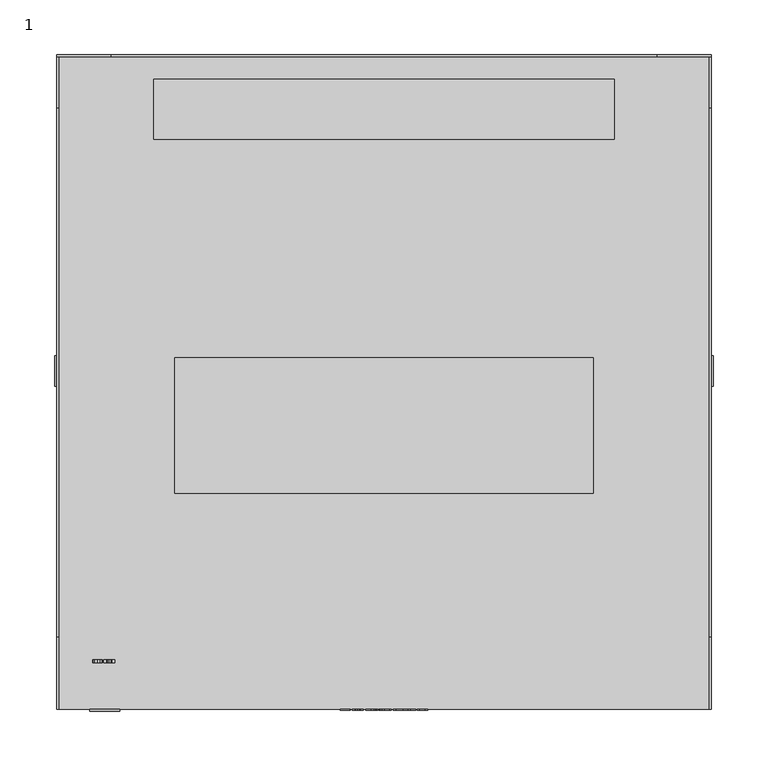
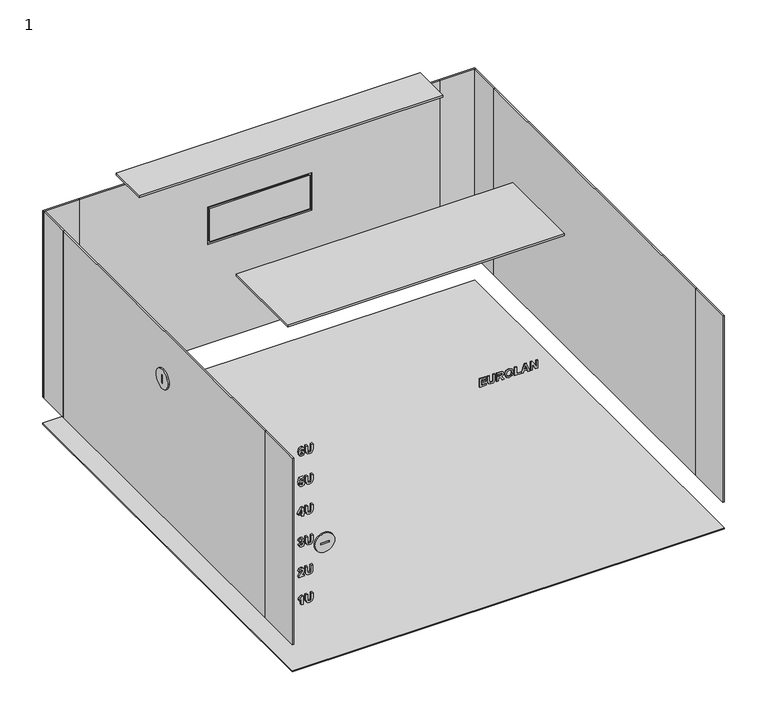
"""IFC4 building model written with IfcOpenShell, lengths in millimetres: proxy geometry, 1 : 6U 600мм металлическая дверь."""

from ifc_helpers import new_model, si_unit, point, frame, frame_2d, origin, origin_with_axes, place, context, project, spatial, polyline, circle_curve, trimmed, segment, composite_curve, outline, extrude, source, transform, mapped, element, save


def proxy_1_f0d522ef(model_context):
    return source(origin(), model_context, "Body", "SweptSolid", [
        extrude(outline(polyline([(328.0, -40.3245382), (328.0, -30.9964522), (330.1376864, -30.9964522), (330.1376864, -37.9925167), (333.2470483, -37.9925167), (333.2470483, -31.5794576), (335.3847347, -31.5794576), (335.3847347, -37.9925167), (338.1054264, -37.9925167), (338.1054264, -31.1907874), (340.2431128, -31.1907874), (340.2431128, -40.3245382), (328.0, -40.3245382)])), frame((0.0, -301.0, 0.0), z_axis=(0.0, 1.0, 0.0), x_axis=(0.0, 0.0, 1.0)), (0.0, 0.0, 1.0), 1.0),
        extrude(outline(polyline([(340.2431128, -29.053101), (333.7207402, -29.053101), (330.6174512, -28.8071456), (329.2601418, -28.1026808), (328.2095176, -26.6482039), (327.8056649, -23.9487675), (328.1761162, -21.5575346), (329.173602, -20.0954664), (330.7085458, -19.3454543), (333.8209443, -19.1420097), (340.2431128, -19.1420097), (340.2431128, -21.4740312), (333.4960402, -21.4740312), (331.4236383, -21.5924541), (330.3714958, -22.2923642), (329.9433512, -24.0216432), (330.3973059, -25.7979877), (331.5982363, -26.6208755), (333.6387551, -26.7210795), (340.2431128, -26.7210795), (340.2431128, -29.053101)])), frame((0.0, -301.0, 0.0), z_axis=(0.0, 1.0, 0.0), x_axis=(0.0, 0.0, 1.0)), (0.0, 0.0, 1.0), 1.0),
        extrude(outline(polyline([(328.0, -16.8099882), (328.0, -14.4779667), (333.0527132, -13.9435451), (332.9251808, -12.6120459), (332.4560437, -11.8164865), (330.7966039, -10.4242575), (328.0, -8.6509495), (328.0, -5.9272213), (330.3745323, -7.424209), (332.3512849, -8.7238252), (333.3715443, -9.9475291), (334.5071902, -7.6625732), (336.7936644, -6.8988969), (338.7339791, -7.4272455), (339.9121358, -8.8361752), (340.2431128, -11.6601074), (340.2431128, -16.8099882), (328.0, -16.8099882)]), holes=[polyline([(335.1903996, -14.4779667), (338.1054264, -14.4779667), (338.1054264, -12.4495939), (338.0659521, -10.5548264), (337.6150339, -9.5770778), (336.6782779, -9.2309184), (335.817434, -9.4935744), (335.3315962, -10.2223312), (335.1903996, -12.5558709), (335.1903996, -14.4779667)])]), frame((0.0, -301.0, 0.0), z_axis=(0.0, 1.0, 0.0), x_axis=(0.0, 0.0, 1.0)), (0.0, 0.0, 1.0), 1.0),
        extrude(outline(polyline([(334.0456442, -4.9555457), (329.4681411, -3.3735363), (327.8056649, 0.8896905), (329.4757323, 5.1225524), (334.106374, 6.7045618), (338.7628257, 5.1104065), (340.4374479, 0.8593256), (339.9546466, -1.7338337), (338.8539203, -3.2869964), (337.1792981, -4.4059416), (334.0456442, -4.9555457)]), holes=[polyline([(334.1306659, -2.6235242), (337.2612832, -1.6579215), (338.2997616, 0.886654), (337.2734292, 3.4190836), (334.1640672, 4.3725403), (330.9985302, 3.3932735), (329.9433512, 0.886654), (331.0061214, -1.6321114), (334.1306659, -2.6235242)])]), frame((0.0, -301.0, 0.0), z_axis=(0.0, 1.0, 0.0), x_axis=(0.0, 0.0, 1.0)), (0.0, 0.0, 1.0), 1.0),
        extrude(outline(polyline([(328.0, 8.647913), (328.0, 17.1986585), (330.1376864, 17.1986585), (330.1376864, 10.9799345), (340.2431128, 10.9799345), (340.2431128, 8.647913), (328.0, 8.647913)])), frame((0.0, -301.0, 0.0), z_axis=(0.0, 1.0, 0.0), x_axis=(0.0, 0.0, 1.0)), (0.0, 0.0, 1.0), 1.0),
        extrude(outline(polyline([(328.0, 29.2474361), (340.2431128, 24.7352175), (340.2431128, 22.2513717), (328.0, 17.7816638), (328.0, 20.2655096), (330.7206917, 21.2128934), (330.7206917, 25.837462), (328.0, 26.7969917), (328.0, 29.2474361)]), holes=[polyline([(332.8583781, 25.0904864), (332.8583781, 21.959869), (337.3280859, 23.51455), (332.8583781, 25.0904864)])]), frame((0.0, -301.0, 0.0), z_axis=(0.0, 1.0, 0.0), x_axis=(0.0, 0.0, 1.0)), (0.0, 0.0, 1.0), 1.0),
        extrude(outline(polyline([(328.0, 30.4134469), (328.0, 32.7454684), (336.1195644, 32.7454684), (328.0, 37.8042546), (328.0, 40.3245382), (340.2431128, 40.3245382), (340.2431128, 37.9925167), (332.002089, 37.9925167), (340.2431128, 32.8578184), (340.2431128, 30.4134469), (328.0, 30.4134469)])), frame((0.0, -301.0, 0.0), z_axis=(0.0, 1.0, 0.0), x_axis=(0.0, 0.0, 1.0)), (0.0, 0.0, 1.0), 1.0),
        extrude(outline(composite_curve([segment(trimmed(circle_curve(frame_2d((9.997621, 243.4611412)), 14.0), [point((-4.002379, 243.4611412))], [point((23.997621, 243.4611412))], False, "CARTESIAN"), True, "CONTINUOUS"), segment(trimmed(circle_curve(frame_2d((9.997621, 243.4611412)), 14.0), [point((23.997621, 243.4611412))], [point((-4.002379, 243.4611412))], False, "CARTESIAN"), True, "CONTINUOUS")], self_intersect=False), holes=[polyline([(11.0, 249.5), (9.0, 249.5), (9.0, 237.5), (11.0, 237.5), (11.0, 249.5)])]), frame((-302.0, 0.0, 0.0), z_axis=(1.0, 0.0, 0.0), x_axis=(0.0, 1.0, 0.0)), (0.0, 0.0, 1.0), 2.0),
        extrude(outline(composite_curve([segment(trimmed(circle_curve(frame_2d((9.997621, 243.4611412)), 14.0), [point((-4.002379, 243.4611412))], [point((23.997621, 243.4611412))], False, "CARTESIAN"), True, "CONTINUOUS"), segment(trimmed(circle_curve(frame_2d((9.997621, 243.4611412)), 14.0), [point((23.997621, 243.4611412))], [point((-4.002379, 243.4611412))], False, "CARTESIAN"), True, "CONTINUOUS")], self_intersect=False), holes=[polyline([(11.0, 249.5), (9.0, 249.5), (9.0, 237.5), (11.0, 237.5), (11.0, 249.5)])]), frame((300.0, 0.0, 0.0), z_axis=(1.0, 0.0, 0.0), x_axis=(0.0, 1.0, 0.0)), (0.0, 0.0, 1.0), 2.0),
        extrude(outline(composite_curve([segment(trimmed(circle_curve(frame_2d((176.0, -256.0)), 13.7647373), [point((176.0, -242.2352627))], [point((176.0, -269.7647373))], False, "CARTESIAN"), True, "CONTINUOUS"), segment(trimmed(circle_curve(frame_2d((176.0, -256.0)), 13.7647373), [point((176.0, -269.7647373))], [point((176.0, -242.2352627))], False, "CARTESIAN"), True, "CONTINUOUS")], self_intersect=False), holes=[polyline([(177.0, -250.0), (175.0, -250.0), (175.0, -262.0), (177.0, -262.0), (177.0, -250.0)])]), frame((0.0, -302.0, 0.0), z_axis=(0.0, 1.0, 0.0), x_axis=(0.0, 0.0, 1.0)), (0.0, 0.0, 1.0), 2.0),
        extrude(outline(polyline([(300.0, 300.0), (300.0, -300.0), (-300.0, -300.0), (-300.0, 300.0), (300.0, 300.0)])), origin_with_axes(), (0.0, 0.0, 1.0), 2.0),
        extrude(outline(polyline([(211.0, 277.5), (211.0, 222.5), (-211.0, 222.5), (-211.0, 277.5), (211.0, 277.5)])), frame((0.0, 0.0, 348.9795778), z_axis=(0.0, 0.0, 1.0), x_axis=(1.0, 0.0, 0.0)), (0.0, 0.0, 1.0), 3.0204222),
        extrude(outline(polyline([(192.0, 22.0), (192.0, -102.0), (-192.0, -102.0), (-192.0, 22.0), (192.0, 22.0)])), frame((0.0, 0.0, 348.9795778), z_axis=(0.0, 0.0, 1.0), x_axis=(1.0, 0.0, 0.0)), (0.0, 0.0, 1.0), 3.0204222),
        extrude(outline(polyline([(-69.5, 300.0), (69.5, 300.0), (69.5, 298.0), (-69.5, 298.0), (-69.5, 300.0)])), frame((0.0, 0.0, 189.0), z_axis=(0.0, 0.0, 1.0), x_axis=(1.0, 0.0, 0.0)), (0.0, 0.0, 1.0), 49.0),
        extrude(outline(polyline([(314.0, -250.0), (40.0, -250.0), (40.0, 250.0), (314.0, 250.0), (314.0, -250.0)]), holes=[polyline([(241.0, -72.5), (241.0, 72.5), (186.0, 72.5), (186.0, -72.5), (241.0, -72.5)])]), frame((0.0, 298.0, 0.0), z_axis=(0.0, 1.0, 0.0), x_axis=(0.0, 0.0, 1.0)), (0.0, 0.0, 1.0), 2.0),
        extrude(outline(polyline([(-300.0, 300.0), (-250.0, 300.0), (-250.0, 298.0), (-300.0, 298.0), (-300.0, 300.0)])), frame((0.0, 0.0, 40.0), z_axis=(0.0, 0.0, 1.0), x_axis=(1.0, 0.0, 0.0)), (0.0, 0.0, 1.0), 274.0),
        extrude(outline(polyline([(250.0, 300.0), (300.0, 300.0), (300.0, 298.0), (250.0, 298.0), (250.0, 300.0)])), frame((0.0, 0.0, 40.0), z_axis=(0.0, 0.0, 1.0), x_axis=(1.0, 0.0, 0.0)), (0.0, 0.0, 1.0), 274.0),
        extrude(outline(polyline([(-298.0, 250.8155315), (-298.0, -233.7095641), (-300.0, -233.7095641), (-300.0, 250.8155315), (-298.0, 250.8155315)])), frame((0.0, 0.0, 40.0), z_axis=(0.0, 0.0, 1.0), x_axis=(1.0, 0.0, 0.0)), (0.0, 0.0, 1.0), 274.0),
        extrude(outline(polyline([(-298.0, -233.7095641), (-298.0, -300.0), (-300.0, -300.0), (-300.0, -233.7095641), (-298.0, -233.7095641)])), frame((0.0, 0.0, 40.0), z_axis=(0.0, 0.0, 1.0), x_axis=(1.0, 0.0, 0.0)), (0.0, 0.0, 1.0), 274.0),
        extrude(outline(polyline([(-298.0, 300.0), (-298.0, 250.8155315), (-300.0, 250.8155315), (-300.0, 300.0), (-298.0, 300.0)])), frame((0.0, 0.0, 40.0), z_axis=(0.0, 0.0, 1.0), x_axis=(1.0, 0.0, 0.0)), (0.0, 0.0, 1.0), 274.0),
        extrude(outline(polyline([(300.0, 250.8155315), (300.0, -233.7095641), (298.0, -233.7095641), (298.0, 250.8155315), (300.0, 250.8155315)])), frame((0.0, 0.0, 40.0), z_axis=(0.0, 0.0, 1.0), x_axis=(1.0, 0.0, 0.0)), (0.0, 0.0, 1.0), 274.0),
        extrude(outline(polyline([(300.0, 300.0), (300.0, 250.8155315), (298.0, 250.8155315), (298.0, 300.0), (300.0, 300.0)])), frame((0.0, 0.0, 40.0), z_axis=(0.0, 0.0, 1.0), x_axis=(1.0, 0.0, 0.0)), (0.0, 0.0, 1.0), 274.0),
        extrude(outline(polyline([(300.0, -233.7095641), (300.0, -300.0), (298.0, -300.0), (298.0, -233.7095641), (300.0, -233.7095641)])), frame((0.0, 0.0, 40.0), z_axis=(0.0, 0.0, 1.0), x_axis=(1.0, 0.0, 0.0)), (0.0, 0.0, 1.0), 274.0),
        extrude(outline(polyline([(287.6111434, -258.8540615), (290.0281866, -259.9654155), (290.8601838, -262.1668681), (289.381415, -265.2473834), (284.5534017, -266.4331314), (279.8559574, -265.2974855), (278.4227359, -262.4006775), (279.5325716, -259.7073142), (282.4764451, -258.6597264), (285.2973409, -259.6845405), (286.390476, -262.1486492), (285.3671801, -264.2802626), (288.0772441, -263.6638558), (288.7224974, -262.4674802), (288.3900022, -261.5990451), (287.3621516, -261.186083), (287.6111434, -258.8540615)]), holes=[polyline([(282.5280654, -264.1011099), (283.8155356, -263.6532281), (284.2527896, -262.5585748), (283.7957984, -261.4396296), (282.3549856, -260.9917479), (280.9794573, -261.4077465), (280.5604222, -262.4462248), (281.0720702, -263.5970531), (282.5280654, -264.1011099)])]), frame((0.0, -257.6777479, 0.0), z_axis=(0.0, 1.0, 0.0), x_axis=(0.0, 0.0, 1.0)), (0.0, 0.0, 1.0), 3.0),
        extrude(outline(polyline([(290.8601838, -256.7163752), (284.3378112, -256.7163752), (281.2345222, -256.4704198), (279.8772128, -255.7659549), (278.8265886, -254.311478), (278.4227359, -251.6120417), (278.7931872, -249.2208087), (279.790673, -247.7587405), (281.3256168, -247.0087284), (284.4380153, -246.8052838), (290.8601838, -246.8052838), (290.8601838, -249.1373053), (284.1131112, -249.1373053), (282.0407093, -249.2557283), (280.9885668, -249.9556384), (280.5604222, -251.6849173), (281.0143769, -253.4612618), (282.2153073, -254.2841496), (284.2558261, -254.3843537), (290.8601838, -254.3843537), (290.8601838, -256.7163752)])), frame((0.0, -257.6777479, 0.0), z_axis=(0.0, 1.0, 0.0), x_axis=(0.0, 0.0, 1.0)), (0.0, 0.0, 1.0), 3.0),
        extrude(outline(polyline([(237.3503584, -266.4331314), (234.6964693, -265.1957632), (233.7096113, -262.522137), (235.2825112, -259.312571), (237.9029989, -258.4653913), (240.7679237, -259.4826142), (241.8716865, -261.960387), (241.3949581, -263.4634477), (243.6207026, -262.9927924), (243.6207026, -259.0483966), (245.9527241, -259.0483966), (245.9527241, -264.8784504), (239.0629366, -266.2387962), (238.7623245, -264.2164963), (239.7340001, -262.509991), (239.2633447, -261.2726229), (237.8513786, -260.7974128), (236.3467996, -261.3090607), (235.8472976, -262.5585748), (236.317953, -263.7002937), (237.5963138, -264.295445), (237.3503584, -266.4331314)])), frame((0.0, -257.6777479, 0.0), z_axis=(0.0, 1.0, 0.0), x_axis=(0.0, 0.0, 1.0)), (0.0, 0.0, 1.0), 3.0),
        extrude(outline(polyline([(246.1470592, -256.7163752), (239.6246866, -256.7163752), (236.5213976, -256.4704198), (235.1640882, -255.7659549), (234.113464, -254.311478), (233.7096113, -251.6120417), (234.0800626, -249.2208087), (235.0775484, -247.7587405), (236.6124922, -247.0087284), (239.7248907, -246.8052838), (246.1470592, -246.8052838), (246.1470592, -249.1373053), (239.3999866, -249.1373053), (237.3275847, -249.2557283), (236.2754422, -249.9556384), (235.8472976, -251.6849173), (236.3012523, -253.4612618), (237.5021827, -254.2841496), (239.5427015, -254.3843537), (246.1470592, -254.3843537), (246.1470592, -256.7163752)])), frame((0.0, -257.6777479, 0.0), z_axis=(0.0, 1.0, 0.0), x_axis=(0.0, 0.0, 1.0)), (0.0, 0.0, 1.0), 3.0),
        extrude(outline(polyline([(189.9283299, -262.1577586), (189.9283299, -259.8257371), (192.4546865, -259.8257371), (192.4546865, -258.2710562), (194.3980377, -258.2710562), (194.3980377, -259.8257371), (201.9771076, -259.8257371), (201.9771076, -261.848037), (194.3889283, -266.8218016), (192.4546865, -266.8218016), (192.4546865, -262.1577586), (189.9283299, -262.1577586)]), holes=[polyline([(194.3980377, -262.1577586), (194.3980377, -264.7630639), (198.3758348, -262.1577586), (194.3980377, -262.1577586)])]), frame((0.0, -257.6777479, 0.0), z_axis=(0.0, 1.0, 0.0), x_axis=(0.0, 0.0, 1.0)), (0.0, 0.0, 1.0), 3.0),
        extrude(outline(polyline([(202.1714427, -256.7163752), (195.6490701, -256.7163752), (192.5457811, -256.4704198), (191.1884717, -255.7659549), (190.1378475, -254.311478), (189.7339948, -251.6120417), (190.1044461, -249.2208087), (191.1019319, -247.7587405), (192.6368757, -247.0087284), (195.7492742, -246.8052838), (202.1714427, -246.8052838), (202.1714427, -249.1373053), (195.4243701, -249.1373053), (193.3519682, -249.2557283), (192.2998257, -249.9556384), (191.8716811, -251.6849173), (192.3256358, -253.4612618), (193.5265662, -254.2841496), (195.567085, -254.3843537), (202.1714427, -254.3843537), (202.1714427, -256.7163752)])), frame((0.0, -257.6777479, 0.0), z_axis=(0.0, 1.0, 0.0), x_axis=(0.0, 0.0, 1.0)), (0.0, 0.0, 1.0), 3.0),
        extrude(outline(polyline([(148.35045, -266.4331314), (145.734517, -265.2200551), (144.7339948, -262.5859032), (145.859013, -259.7847446), (148.5781864, -258.6597264), (150.4562532, -259.294352), (151.4567755, -260.9887114), (154.0286794, -259.2427318), (156.0691982, -260.0565101), (157.1714427, -262.6739613), (156.773663, -264.3971673), (155.6820462, -265.5965794), (153.8282713, -266.2387962), (153.4790753, -263.9067747), (154.6374949, -263.4892579), (155.0337563, -262.6587789), (154.6921516, -261.8708107), (153.776651, -261.5747533), (152.6956619, -261.9710147), (152.3130646, -263.1203248), (150.3909688, -263.3237694), (150.5640485, -262.397641), (150.0812472, -261.4001553), (148.7725216, -260.9917479), (147.3863656, -261.4381114), (146.8716811, -262.5403559), (147.3210811, -263.5757977), (148.6206973, -264.1011099), (148.35045, -266.4331314)])), frame((0.0, -257.6777479, 0.0), z_axis=(0.0, 1.0, 0.0), x_axis=(0.0, 0.0, 1.0)), (0.0, 0.0, 1.0), 3.0),
        extrude(outline(polyline([(157.1714427, -256.7163752), (150.6490701, -256.7163752), (147.5457811, -256.4704198), (146.1884717, -255.7659549), (145.1378475, -254.311478), (144.7339948, -251.6120417), (145.1044461, -249.2208087), (146.1019319, -247.7587405), (147.6368757, -247.0087284), (150.7492742, -246.8052838), (157.1714427, -246.8052838), (157.1714427, -249.1373053), (150.4243701, -249.1373053), (148.3519682, -249.2557283), (147.2998257, -249.9556384), (146.8716811, -251.6849173), (147.3256358, -253.4612618), (148.5265662, -254.2841496), (150.567085, -254.3843537), (157.1714427, -254.3843537), (157.1714427, -256.7163752)])), frame((0.0, -257.6777479, 0.0), z_axis=(0.0, 1.0, 0.0), x_axis=(0.0, 0.0, 1.0)), (0.0, 0.0, 1.0), 3.0),
        extrude(outline(polyline([(103.3014708, -258.8246798), (103.9391329, -262.7326376), (105.2660774, -261.4011384), (106.7964665, -259.9512162), (108.3298921, -259.094927), (109.8724272, -258.8246798), (112.2545507, -259.8115378), (113.2125621, -262.5261566), (112.3577912, -265.1527172), (109.5384137, -266.4037496), (109.3258596, -264.0717281), (110.6695048, -263.6223281), (111.0748758, -262.5777768), (110.6634319, -261.5347438), (109.4837569, -261.1567012), (108.0809003, -261.6061012), (106.1254031, -263.4097741), (103.2574418, -265.8541456), (100.9694493, -266.5980847), (100.9694493, -258.8246798), (103.3014708, -258.8246798)])), frame((0.0, -257.6777479, 0.0), z_axis=(0.0, 1.0, 0.0), x_axis=(0.0, 0.0, 1.0)), (0.0, 0.0, 1.0), 3.0),
        extrude(outline(polyline([(113.2125621, -256.8813285), (106.6901895, -256.8813285), (103.5869005, -256.6353731), (102.2295911, -255.9309083), (101.1789669, -254.4764314), (100.7751142, -251.776995), (101.1455655, -249.3857621), (102.1430513, -247.9236939), (103.6779951, -247.1736818), (106.7903936, -246.9702372), (113.2125621, -246.9702372), (113.2125621, -249.3022587), (106.4654895, -249.3022587), (104.3930876, -249.4206817), (103.3409451, -250.1205917), (102.9128006, -251.8498707), (103.3667553, -253.6262152), (104.5676856, -254.449103), (106.6082044, -254.549307), (113.2125621, -254.549307), (113.2125621, -256.8813285)])), frame((0.0, -257.6777479, 0.0), z_axis=(0.0, 1.0, 0.0), x_axis=(0.0, 0.0, 1.0)), (0.0, 0.0, 1.0), 3.0),
        extrude(outline(polyline([(59.9283299, -260.6030776), (72.1714427, -260.6030776), (72.1714427, -262.4614073), (70.2053178, -263.9037383), (69.0620807, -265.850126), (66.7300592, -265.850126), (68.6794834, -262.9350991), (59.9283299, -262.9350991), (59.9283299, -260.6030776)])), frame((0.0, -257.6777479, 0.0), z_axis=(0.0, 1.0, 0.0), x_axis=(0.0, 0.0, 1.0)), (0.0, 0.0, 1.0), 3.0),
        extrude(outline(polyline([(72.1714427, -256.7163752), (65.6490701, -256.7163752), (62.5457811, -256.4704198), (61.1884717, -255.7659549), (60.1378475, -254.311478), (59.7339948, -251.6120417), (60.1044461, -249.2208087), (61.1019319, -247.7587405), (62.6368757, -247.0087284), (65.7492742, -246.8052838), (72.1714427, -246.8052838), (72.1714427, -249.1373053), (65.4243701, -249.1373053), (63.3519682, -249.2557283), (62.2998257, -249.9556384), (61.8716811, -251.6849173), (62.3256358, -253.4612618), (63.5265662, -254.2841496), (65.567085, -254.3843537), (72.1714427, -254.3843537), (72.1714427, -256.7163752)])), frame((0.0, -257.6777479, 0.0), z_axis=(0.0, 1.0, 0.0), x_axis=(0.0, 0.0, 1.0)), (0.0, 0.0, 1.0), 3.0),
    ])


if __name__ == "__main__":
    model = new_model("IFC4")
    model_context = context("Model", 3, world=origin())
    ifc_project = project(units=[si_unit("LENGTHUNIT", "METRE", prefix="MILLI")], contexts=[model_context])
    site = spatial("IfcSite", under=ifc_project)
    building = spatial("IfcBuilding", under=site)
    placement = place(None, origin())
    proxy_1_shape = proxy_1_f0d522ef(model_context)
    element("IfcBuildingElementProxy", 1, Name="1 : 6U 600мм металлическая дверь", ObjectType="1 : 6U 600мм металлическая дверь", at=placement, inside=building, context=model_context, shape_type="MappedRepresentation", body=[
        mapped(proxy_1_shape, transform((0.0, 0.0, 0.0), x_axis=(1.0, 0.0, 0.0), y_axis=(0.0, 1.0, 0.0), z_axis=(0.0, 0.0, 1.0))),
    ])
    save(model, "model.ifc")
